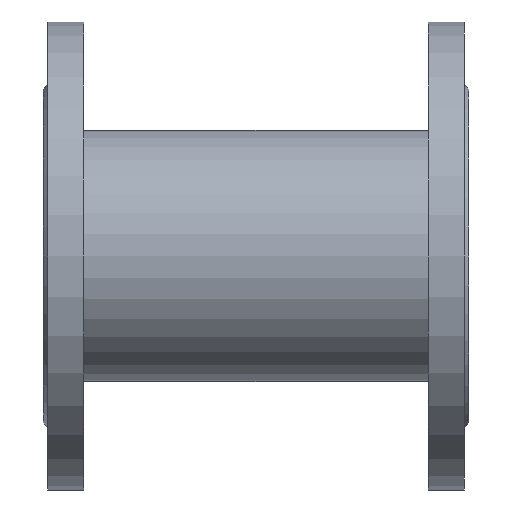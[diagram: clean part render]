
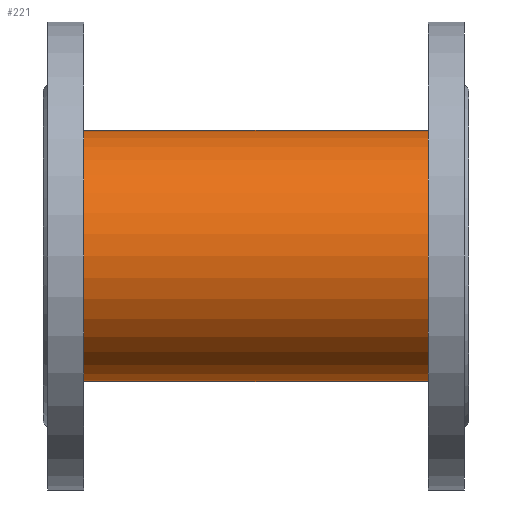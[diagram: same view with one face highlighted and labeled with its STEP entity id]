
A CAD part, front view. The second image highlights one B-rep face of the part: STEP entity #221.
In plain terms, the highlighted cylindrical face has radius 59 mm (diameter 118 mm), a partial arc.
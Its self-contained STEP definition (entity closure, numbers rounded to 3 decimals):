
#221=ADVANCED_FACE('',(#459),#460,.T.);
#459=FACE_OUTER_BOUND('',#721,.T.);
#460=CYLINDRICAL_SURFACE('',#722,59.0);
#721=EDGE_LOOP('',(#1197,#1198,#1199,#1200));
#722=AXIS2_PLACEMENT_3D('',#1201,#1202,#1203);
#1197=ORIENTED_EDGE('',*,*,#1546,.T.);
#1198=ORIENTED_EDGE('',*,*,#1543,.T.);
#1199=ORIENTED_EDGE('',*,*,#1547,.T.);
#1200=ORIENTED_EDGE('',*,*,#1548,.T.);
#1201=CARTESIAN_POINT('',(5.0,0.0,0.));
#1202=DIRECTION('',(1.0,0.0,0.));
#1203=DIRECTION('',(0.,0.0,-1.0));
#1543=EDGE_CURVE('',#1866,#1867,#1868,.T.);
#1546=EDGE_CURVE('',#1871,#1866,#1872,.T.);
#1547=EDGE_CURVE('',#1867,#1873,#1874,.T.);
#1548=EDGE_CURVE('',#1873,#1871,#1875,.T.);
#1866=VERTEX_POINT('',#2243);
#1867=VERTEX_POINT('',#2244);
#1868=CIRCLE('',#2245,59.0);
#1871=VERTEX_POINT('',#2248);
#1872=LINE('',#2249,#2250);
#1873=VERTEX_POINT('',#2251);
#1874=LINE('',#2252,#2253);
#1875=CIRCLE('',#2254,59.0);
#2243=CARTESIAN_POINT('',(195.0,0.0,-59.0));
#2244=CARTESIAN_POINT('',(195.0,0.,59.0));
#2245=AXIS2_PLACEMENT_3D('',#2615,#2616,#2617);
#2248=CARTESIAN_POINT('',(5.0,0.0,-59.0));
#2249=CARTESIAN_POINT('',(5.0,0.,-59.0));
#2250=VECTOR('',#2621,1.0);
#2251=CARTESIAN_POINT('',(5.0,0.,59.0));
#2252=CARTESIAN_POINT('',(5.0,0.,59.0));
#2253=VECTOR('',#2622,1.0);
#2254=AXIS2_PLACEMENT_3D('',#2623,#2624,#2625);
#2615=CARTESIAN_POINT('',(195.0,0.0,0.));
#2616=DIRECTION('',(-1.0,-0.0,0.));
#2617=DIRECTION('',(0.,0.0,-1.0));
#2621=DIRECTION('',(1.0,0.0,0.));
#2622=DIRECTION('',(-1.0,-0.0,0.));
#2623=CARTESIAN_POINT('',(5.0,0.0,0.));
#2624=DIRECTION('',(1.0,0.0,0.));
#2625=DIRECTION('',(0.,0.0,-1.0));
